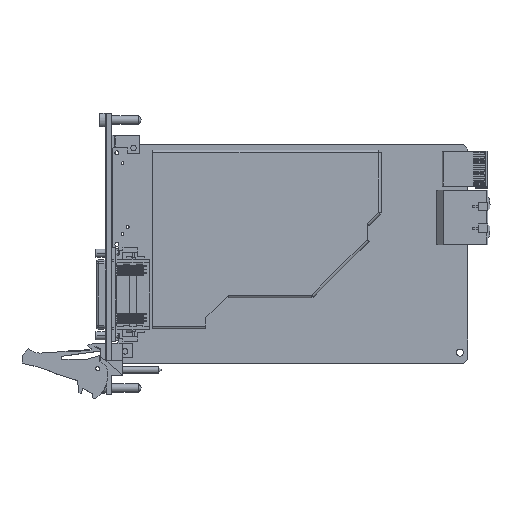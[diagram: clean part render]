
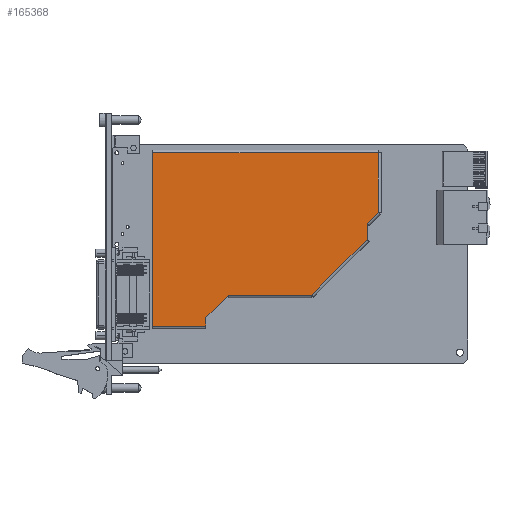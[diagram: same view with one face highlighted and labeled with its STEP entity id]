
A CAD part, top view. The second image highlights one B-rep face of the part: STEP entity #165368.
In plain terms, the highlighted planar face has unit normal (0, 0, 1).
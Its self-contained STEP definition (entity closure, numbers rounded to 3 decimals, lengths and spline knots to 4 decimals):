
#60061=DIRECTION('',(-0.707,-0.707,0.));
#60062=VECTOR('',#60061,0.2828);
#60063=CARTESIAN_POINT('',(4.2906,2.5254,0.377));
#60064=LINE('',#60063,#60062);
#60127=DIRECTION('',(0.,1.,0.));
#60128=VECTOR('',#60127,0.161);
#60129=CARTESIAN_POINT('',(1.1906,0.4744,0.377));
#60130=LINE('',#60129,#60128);
#60131=DIRECTION('',(0.,-1.,0.));
#60132=VECTOR('',#60131,3.119);
#60133=CARTESIAN_POINT('',(0.2346,3.5934,0.377));
#60134=LINE('',#60133,#60132);
#60135=DIRECTION('',(0.,1.,0.));
#60136=VECTOR('',#60135,0.29);
#60137=CARTESIAN_POINT('',(4.0906,2.0354,0.377));
#60138=LINE('',#60137,#60136);
#60139=DIRECTION('',(0.707,0.707,0.));
#60140=VECTOR('',#60139,0.5643);
#60141=CARTESIAN_POINT('',(1.1906,0.6354,0.377));
#60142=LINE('',#60141,#60140);
#60161=DIRECTION('',(-1.,0.,0.));
#60162=VECTOR('',#60161,0.956);
#60163=CARTESIAN_POINT('',(1.1906,0.4744,0.377));
#60164=LINE('',#60163,#60162);
#60245=DIRECTION('',(1.,0.,0.));
#60246=VECTOR('',#60245,4.056);
#60247=CARTESIAN_POINT('',(0.2346,3.5934,0.377));
#60248=LINE('',#60247,#60246);
#60325=DIRECTION('',(0.,-1.,0.));
#60326=VECTOR('',#60325,1.068);
#60327=CARTESIAN_POINT('',(4.2906,3.5934,0.377));
#60328=LINE('',#60327,#60326);
#60409=DIRECTION('',(-1.,0.,0.));
#60410=VECTOR('',#60409,1.5);
#60411=CARTESIAN_POINT('',(3.0896,1.0344,0.377));
#60412=LINE('',#60411,#60410);
#60441=DIRECTION('',(-0.707,-0.707,0.));
#60442=VECTOR('',#60441,1.4156);
#60443=CARTESIAN_POINT('',(4.0906,2.0354,0.377));
#60444=LINE('',#60443,#60442);
#80256=CARTESIAN_POINT('',(1.1906,0.6354,0.377));
#80257=CARTESIAN_POINT('',(1.5896,1.0344,0.377));
#80258=VERTEX_POINT('',#80256);
#80259=VERTEX_POINT('',#80257);
#80264=CARTESIAN_POINT('',(3.0896,1.0344,0.377));
#80266=VERTEX_POINT('',#80264);
#80268=CARTESIAN_POINT('',(4.2906,3.5934,0.377));
#80270=VERTEX_POINT('',#80268);
#80272=CARTESIAN_POINT('',(0.2346,3.5934,0.377));
#80274=VERTEX_POINT('',#80272);
#80292=CARTESIAN_POINT('',(1.1906,0.4744,0.377));
#80293=VERTEX_POINT('',#80292);
#80296=CARTESIAN_POINT('',(0.2346,0.4744,0.377));
#80297=VERTEX_POINT('',#80296);
#80316=CARTESIAN_POINT('',(4.0906,2.0354,0.377));
#80318=VERTEX_POINT('',#80316);
#80324=CARTESIAN_POINT('',(4.2906,2.5254,0.377));
#80326=VERTEX_POINT('',#80324);
#80372=CARTESIAN_POINT('',(4.0906,2.3254,0.377));
#80373=VERTEX_POINT('',#80372);
#165343=CARTESIAN_POINT('',(3.0206,2.2954,0.377));
#165344=DIRECTION('',(0.,0.,1.));
#165345=DIRECTION('',(1.,0.,0.));
#165346=AXIS2_PLACEMENT_3D('',#165343,#165344,#165345);
#165347=PLANE('',#165346);
#165349=ORIENTED_EDGE('',*,*,#165348,.F.);
#165351=ORIENTED_EDGE('',*,*,#165350,.T.);
#165353=ORIENTED_EDGE('',*,*,#165352,.F.);
#165355=ORIENTED_EDGE('',*,*,#165354,.T.);
#165357=ORIENTED_EDGE('',*,*,#165356,.T.);
#165358=ORIENTED_EDGE('',*,*,#165242,.T.);
#165359=ORIENTED_EDGE('',*,*,#165334,.F.);
#165361=ORIENTED_EDGE('',*,*,#165360,.T.);
#165363=ORIENTED_EDGE('',*,*,#165362,.T.);
#165365=ORIENTED_EDGE('',*,*,#165364,.F.);
#165366=EDGE_LOOP('',(#165349,#165351,#165353,#165355,#165357,#165358,#165359,
#165361,#165363,#165365));
#165367=FACE_OUTER_BOUND('',#165366,.F.);
#165368=ADVANCED_FACE('',(#165367),#165347,.T.);
#165242=EDGE_CURVE('',#80326,#80373,#60064,.T.);
#165334=EDGE_CURVE('',#80318,#80373,#60138,.T.);
#165348=EDGE_CURVE('',#80293,#80258,#60130,.T.);
#165350=EDGE_CURVE('',#80293,#80297,#60164,.T.);
#165352=EDGE_CURVE('',#80274,#80297,#60134,.T.);
#165354=EDGE_CURVE('',#80274,#80270,#60248,.T.);
#165356=EDGE_CURVE('',#80270,#80326,#60328,.T.);
#165360=EDGE_CURVE('',#80318,#80266,#60444,.T.);
#165362=EDGE_CURVE('',#80266,#80259,#60412,.T.);
#165364=EDGE_CURVE('',#80258,#80259,#60142,.T.);
